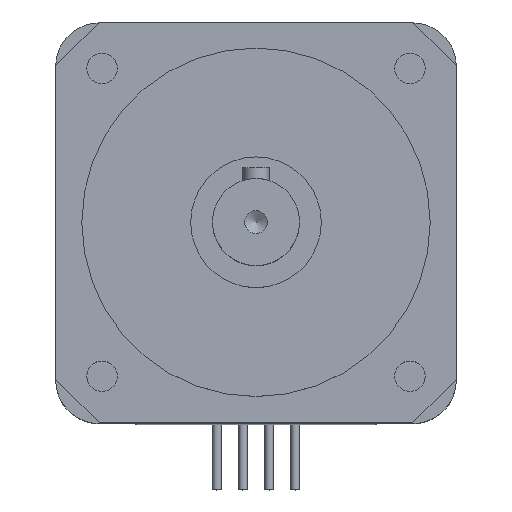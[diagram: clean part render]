
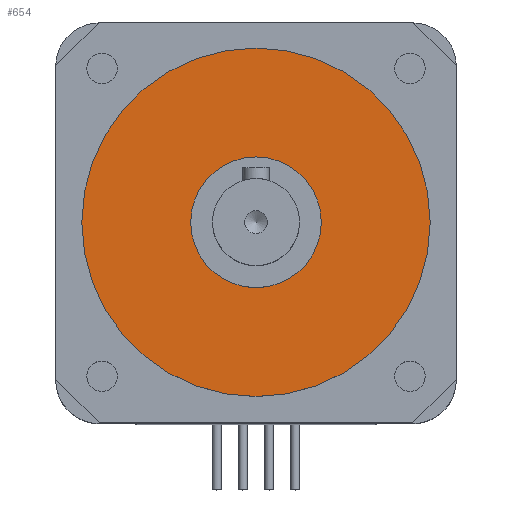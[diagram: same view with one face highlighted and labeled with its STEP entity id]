
A CAD part, top view. The second image highlights one B-rep face of the part: STEP entity #654.
In plain terms, the highlighted planar face has unit normal (0, 0, 1).
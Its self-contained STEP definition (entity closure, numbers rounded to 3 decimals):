
#579=PLANE('',#2173);
#654=ADVANCED_FACE('',(#829,#830),#579,.F.);
#829=FACE_BOUND('',#886,.T.);
#830=FACE_BOUND('',#887,.T.);
#886=EDGE_LOOP('',(#1043));
#887=EDGE_LOOP('',(#1044));
#1043=ORIENTED_EDGE('',*,*,#1795,.F.);
#1044=ORIENTED_EDGE('',*,*,#1787,.F.);
#1590=VERTEX_POINT('',#2996);
#1598=VERTEX_POINT('',#3076);
#1787=EDGE_CURVE('',#1590,#1590,#2067,.T.);
#1795=EDGE_CURVE('',#1598,#1598,#2071,.T.);
#2067=CIRCLE('',#2162,15.);
#2071=CIRCLE('',#2170,40.);
#2162=AXIS2_PLACEMENT_3D('',#2995,#2380,#2381);
#2170=AXIS2_PLACEMENT_3D('',#3075,#2398,#2399);
#2173=AXIS2_PLACEMENT_3D('',#3080,#2404,#2405);
#2380=DIRECTION('',(0.,0.,1.));
#2381=DIRECTION('',(1.,0.,0.));
#2398=DIRECTION('',(0.,0.,-1.));
#2399=DIRECTION('',(1.,0.,0.));
#2404=DIRECTION('',(0.,0.,-1.));
#2405=DIRECTION('',(-1.,0.,0.));
#2995=CARTESIAN_POINT('',(0.,0.,3.));
#2996=CARTESIAN_POINT('',(15.,0.,3.));
#3075=CARTESIAN_POINT('',(0.,0.,3.));
#3076=CARTESIAN_POINT('',(40.,0.,3.));
#3080=CARTESIAN_POINT('',(0.,0.,3.));
